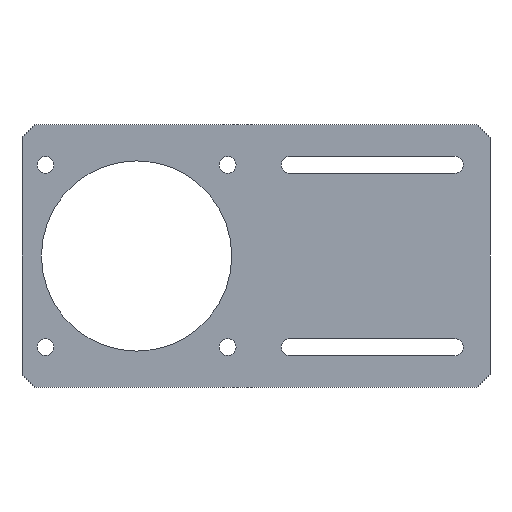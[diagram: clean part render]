
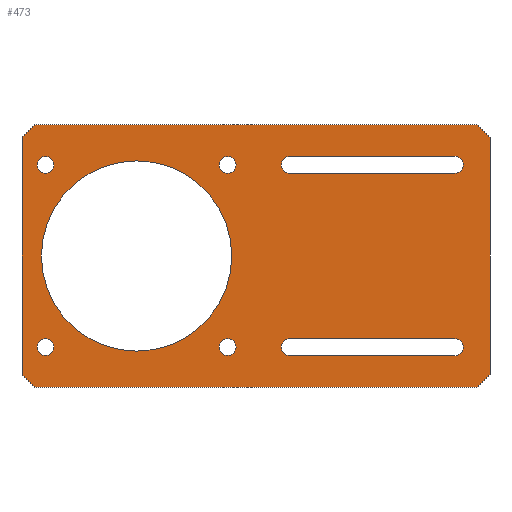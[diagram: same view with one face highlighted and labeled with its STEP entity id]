
A CAD part, front view. The second image highlights one B-rep face of the part: STEP entity #473.
In plain terms, the highlighted planar face has unit normal (0, -1, 0).
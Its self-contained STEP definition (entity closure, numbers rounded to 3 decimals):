
#22=FACE_BOUND('',#96,.T.);
#23=FACE_BOUND('',#97,.T.);
#24=FACE_BOUND('',#98,.T.);
#25=FACE_BOUND('',#99,.T.);
#26=FACE_BOUND('',#100,.T.);
#27=FACE_BOUND('',#101,.T.);
#28=FACE_BOUND('',#102,.T.);
#42=PLANE('',#537);
#65=FACE_OUTER_BOUND('',#95,.T.);
#95=EDGE_LOOP('',(#421,#422,#423,#424,#425,#426,#427,#428));
#96=EDGE_LOOP('',(#429));
#97=EDGE_LOOP('',(#430,#431,#432,#433));
#98=EDGE_LOOP('',(#434,#435,#436,#437));
#99=EDGE_LOOP('',(#438));
#100=EDGE_LOOP('',(#439));
#101=EDGE_LOOP('',(#440));
#102=EDGE_LOOP('',(#441));
#107=LINE('',#687,#152);
#111=LINE('',#697,#156);
#115=LINE('',#711,#160);
#119=LINE('',#721,#164);
#126=LINE('',#753,#171);
#130=LINE('',#760,#175);
#133=LINE('',#766,#178);
#136=LINE('',#772,#181);
#139=LINE('',#778,#184);
#142=LINE('',#784,#187);
#145=LINE('',#790,#190);
#147=LINE('',#793,#192);
#152=VECTOR('',#558,10.);
#156=VECTOR('',#570,10.);
#160=VECTOR('',#582,10.);
#164=VECTOR('',#594,10.);
#171=VECTOR('',#627,10.);
#175=VECTOR('',#633,10.);
#178=VECTOR('',#638,10.);
#181=VECTOR('',#643,10.);
#184=VECTOR('',#648,10.);
#187=VECTOR('',#653,10.);
#190=VECTOR('',#658,10.);
#192=VECTOR('',#662,10.);
#193=CIRCLE('',#498,36.6);
#196=CIRCLE('',#502,3.25);
#198=CIRCLE('',#506,3.25);
#200=CIRCLE('',#510,3.25);
#202=CIRCLE('',#514,3.25);
#203=CIRCLE('',#517,3.225);
#205=CIRCLE('',#520,3.225);
#207=CIRCLE('',#523,3.225);
#209=CIRCLE('',#526,3.225);
#211=VERTEX_POINT('',#669);
#215=VERTEX_POINT('',#678);
#216=VERTEX_POINT('',#680);
#218=VERTEX_POINT('',#686);
#220=VERTEX_POINT('',#692);
#223=VERTEX_POINT('',#702);
#224=VERTEX_POINT('',#704);
#226=VERTEX_POINT('',#710);
#228=VERTEX_POINT('',#716);
#229=VERTEX_POINT('',#723);
#231=VERTEX_POINT('',#729);
#233=VERTEX_POINT('',#735);
#235=VERTEX_POINT('',#741);
#239=VERTEX_POINT('',#750);
#240=VERTEX_POINT('',#752);
#242=VERTEX_POINT('',#758);
#244=VERTEX_POINT('',#764);
#246=VERTEX_POINT('',#770);
#248=VERTEX_POINT('',#776);
#250=VERTEX_POINT('',#782);
#252=VERTEX_POINT('',#788);
#253=EDGE_CURVE('',#211,#211,#193,.T.);
#258=EDGE_CURVE('',#216,#215,#196,.T.);
#261=EDGE_CURVE('',#218,#216,#107,.T.);
#264=EDGE_CURVE('',#220,#218,#198,.T.);
#267=EDGE_CURVE('',#215,#220,#111,.T.);
#270=EDGE_CURVE('',#224,#223,#200,.T.);
#273=EDGE_CURVE('',#226,#224,#115,.T.);
#276=EDGE_CURVE('',#228,#226,#202,.T.);
#279=EDGE_CURVE('',#223,#228,#119,.T.);
#280=EDGE_CURVE('',#229,#229,#203,.T.);
#283=EDGE_CURVE('',#231,#231,#205,.T.);
#286=EDGE_CURVE('',#233,#233,#207,.T.);
#289=EDGE_CURVE('',#235,#235,#209,.T.);
#294=EDGE_CURVE('',#240,#239,#126,.T.);
#298=EDGE_CURVE('',#239,#242,#130,.T.);
#301=EDGE_CURVE('',#242,#244,#133,.T.);
#304=EDGE_CURVE('',#244,#246,#136,.T.);
#307=EDGE_CURVE('',#246,#248,#139,.T.);
#310=EDGE_CURVE('',#248,#250,#142,.T.);
#313=EDGE_CURVE('',#250,#252,#145,.T.);
#315=EDGE_CURVE('',#252,#240,#147,.T.);
#421=ORIENTED_EDGE('',*,*,#315,.T.);
#422=ORIENTED_EDGE('',*,*,#294,.T.);
#423=ORIENTED_EDGE('',*,*,#298,.T.);
#424=ORIENTED_EDGE('',*,*,#301,.T.);
#425=ORIENTED_EDGE('',*,*,#304,.T.);
#426=ORIENTED_EDGE('',*,*,#307,.T.);
#427=ORIENTED_EDGE('',*,*,#310,.T.);
#428=ORIENTED_EDGE('',*,*,#313,.T.);
#429=ORIENTED_EDGE('',*,*,#253,.T.);
#430=ORIENTED_EDGE('',*,*,#258,.T.);
#431=ORIENTED_EDGE('',*,*,#267,.T.);
#432=ORIENTED_EDGE('',*,*,#264,.T.);
#433=ORIENTED_EDGE('',*,*,#261,.T.);
#434=ORIENTED_EDGE('',*,*,#270,.T.);
#435=ORIENTED_EDGE('',*,*,#279,.T.);
#436=ORIENTED_EDGE('',*,*,#276,.T.);
#437=ORIENTED_EDGE('',*,*,#273,.T.);
#438=ORIENTED_EDGE('',*,*,#280,.T.);
#439=ORIENTED_EDGE('',*,*,#283,.T.);
#440=ORIENTED_EDGE('',*,*,#286,.T.);
#441=ORIENTED_EDGE('',*,*,#289,.T.);
#473=ADVANCED_FACE('',(#65,#22,#23,#24,#25,#26,#27,#28),#42,.F.);
#498=AXIS2_PLACEMENT_3D('',#670,#542,#543);
#502=AXIS2_PLACEMENT_3D('',#681,#552,#553);
#506=AXIS2_PLACEMENT_3D('',#693,#564,#565);
#510=AXIS2_PLACEMENT_3D('',#705,#576,#577);
#514=AXIS2_PLACEMENT_3D('',#717,#588,#589);
#517=AXIS2_PLACEMENT_3D('',#724,#597,#598);
#520=AXIS2_PLACEMENT_3D('',#730,#604,#605);
#523=AXIS2_PLACEMENT_3D('',#736,#611,#612);
#526=AXIS2_PLACEMENT_3D('',#742,#618,#619);
#537=AXIS2_PLACEMENT_3D('',#795,#665,#666);
#542=DIRECTION('center_axis',(0.,1.,0.));
#543=DIRECTION('ref_axis',(1.,0.,0.));
#552=DIRECTION('center_axis',(0.,1.,0.));
#553=DIRECTION('ref_axis',(0.,0.,1.));
#558=DIRECTION('',(1.,0.,0.));
#564=DIRECTION('center_axis',(0.,1.,0.));
#565=DIRECTION('ref_axis',(0.,0.,-1.));
#570=DIRECTION('',(-1.,0.,0.));
#576=DIRECTION('center_axis',(0.,1.,0.));
#577=DIRECTION('ref_axis',(0.,0.,1.));
#582=DIRECTION('',(-1.,0.,0.));
#588=DIRECTION('center_axis',(0.,1.,0.));
#589=DIRECTION('ref_axis',(0.,0.,-1.));
#594=DIRECTION('',(1.,0.,0.));
#597=DIRECTION('center_axis',(0.,1.,0.));
#598=DIRECTION('ref_axis',(1.,0.,0.));
#604=DIRECTION('center_axis',(0.,1.,0.));
#605=DIRECTION('ref_axis',(1.,0.,0.));
#611=DIRECTION('center_axis',(0.,1.,0.));
#612=DIRECTION('ref_axis',(1.,0.,0.));
#618=DIRECTION('center_axis',(0.,1.,0.));
#619=DIRECTION('ref_axis',(1.,0.,0.));
#627=DIRECTION('',(0.,0.,-1.));
#633=DIRECTION('',(0.707,0.,-0.707));
#638=DIRECTION('',(1.,0.,0.));
#643=DIRECTION('',(0.707,0.,0.707));
#648=DIRECTION('',(0.,0.,1.));
#653=DIRECTION('',(-0.707,0.,0.707));
#658=DIRECTION('',(-1.,0.,0.));
#662=DIRECTION('',(-0.707,0.,-0.707));
#665=DIRECTION('center_axis',(0.,1.,0.));
#666=DIRECTION('ref_axis',(0.,0.,1.));
#669=CARTESIAN_POINT('',(-82.525,0.,0.));
#670=CARTESIAN_POINT('Origin',(-45.925,0.,0.));
#678=CARTESIAN_POINT('',(76.45,0.,-38.35));
#680=CARTESIAN_POINT('',(76.45,0.,-31.85));
#681=CARTESIAN_POINT('Origin',(76.45,0.,-35.1));
#686=CARTESIAN_POINT('',(12.95,0.,-31.85));
#687=CARTESIAN_POINT('',(38.225,0.,-31.85));
#692=CARTESIAN_POINT('',(12.95,0.,-38.35));
#693=CARTESIAN_POINT('Origin',(12.95,0.,-35.1));
#697=CARTESIAN_POINT('',(6.475,0.,-38.35));
#702=CARTESIAN_POINT('',(12.95,0.,38.35));
#704=CARTESIAN_POINT('',(12.95,0.,31.85));
#705=CARTESIAN_POINT('Origin',(12.95,0.,35.1));
#710=CARTESIAN_POINT('',(76.45,0.,31.85));
#711=CARTESIAN_POINT('',(6.475,0.,31.85));
#716=CARTESIAN_POINT('',(76.45,0.,38.35));
#717=CARTESIAN_POINT('Origin',(76.45,0.,35.1));
#721=CARTESIAN_POINT('',(38.225,0.,38.35));
#723=CARTESIAN_POINT('',(-14.1,0.,35.05));
#724=CARTESIAN_POINT('Origin',(-10.875,0.,35.05));
#729=CARTESIAN_POINT('',(-14.1,0.,-35.05));
#730=CARTESIAN_POINT('Origin',(-10.875,0.,-35.05));
#735=CARTESIAN_POINT('',(-84.2,0.,-35.05));
#736=CARTESIAN_POINT('Origin',(-80.975,0.,-35.05));
#741=CARTESIAN_POINT('',(-84.2,0.,35.05));
#742=CARTESIAN_POINT('Origin',(-80.975,0.,35.05));
#750=CARTESIAN_POINT('',(-90.,0.,-45.5));
#752=CARTESIAN_POINT('',(-90.,0.,45.5));
#753=CARTESIAN_POINT('',(-90.,0.,45.5));
#758=CARTESIAN_POINT('',(-85.,0.,-50.5));
#760=CARTESIAN_POINT('',(-90.,0.,-45.5));
#764=CARTESIAN_POINT('',(85.,0.,-50.5));
#766=CARTESIAN_POINT('',(-85.,0.,-50.5));
#770=CARTESIAN_POINT('',(90.,0.,-45.5));
#772=CARTESIAN_POINT('',(85.,0.,-50.5));
#776=CARTESIAN_POINT('',(90.,0.,45.5));
#778=CARTESIAN_POINT('',(90.,0.,-45.5));
#782=CARTESIAN_POINT('',(85.,0.,50.5));
#784=CARTESIAN_POINT('',(90.,0.,45.5));
#788=CARTESIAN_POINT('',(-85.,0.,50.5));
#790=CARTESIAN_POINT('',(85.,0.,50.5));
#793=CARTESIAN_POINT('',(-85.,0.,50.5));
#795=CARTESIAN_POINT('Origin',(0.,0.,0.));
